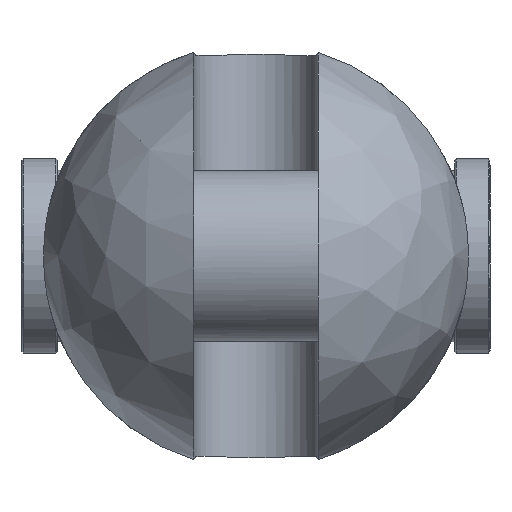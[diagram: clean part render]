
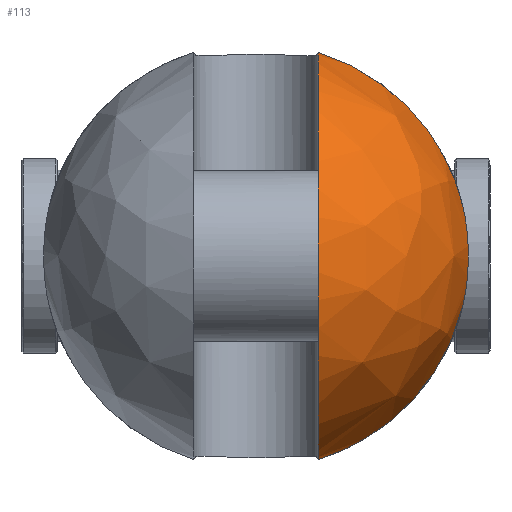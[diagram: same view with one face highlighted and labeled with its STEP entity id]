
A CAD part, left-side view. The second image highlights one B-rep face of the part: STEP entity #113.
In plain terms, the highlighted free-form (B-spline) face has degree [2, 2] with [9, 5] control points.
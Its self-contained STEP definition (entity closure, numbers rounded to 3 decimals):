
#113=ADVANCED_FACE('',(#200),#1527,.T.);
#200=FACE_OUTER_BOUND('',#299,.T.);
#299=EDGE_LOOP('',(#741,#742,#743,#744));
#741=ORIENTED_EDGE('',*,*,#999,.T.);
#742=ORIENTED_EDGE('',*,*,#996,.F.);
#743=ORIENTED_EDGE('',*,*,#1015,.T.);
#744=ORIENTED_EDGE('',*,*,#988,.F.);
#988=EDGE_CURVE('',#1418,#1419,#1249,.T.);
#996=EDGE_CURVE('',#1426,#1427,#1250,.T.);
#999=EDGE_CURVE('',#1418,#1427,#1252,.T.);
#1015=EDGE_CURVE('',#1426,#1419,#1123,.T.);
#1123=B_SPLINE_CURVE_WITH_KNOTS('',3,(#3624,#3625,#3626,#3627,#3628,#3629,
#3630,#3631,#3632,#3633,#3634,#3635,#3636,#3637),.UNSPECIFIED.,.F.,.F.,
(4,2,2,2,2,2,4),(0.,3.967,10.909,17.852,24.794,
31.737,35.704),.UNSPECIFIED.);
#1249=(
BOUNDED_CURVE()
B_SPLINE_CURVE(2,(#3476,#3477,#3478),.UNSPECIFIED.,.F.,.F.)
B_SPLINE_CURVE_WITH_KNOTS((3,3),(0.,74.724),.UNSPECIFIED.)
CURVE()
GEOMETRIC_REPRESENTATION_ITEM()
RATIONAL_B_SPLINE_CURVE((1.,0.868,1.))
REPRESENTATION_ITEM('')
);
#1250=(
BOUNDED_CURVE()
B_SPLINE_CURVE(2,(#3533,#3534,#3535),.UNSPECIFIED.,.F.,.F.)
B_SPLINE_CURVE_WITH_KNOTS((3,3),(0.,74.724),.UNSPECIFIED.)
CURVE()
GEOMETRIC_REPRESENTATION_ITEM()
RATIONAL_B_SPLINE_CURVE((1.,0.868,1.))
REPRESENTATION_ITEM('')
);
#1252=(
BOUNDED_CURVE()
B_SPLINE_CURVE(2,(#3541,#3542,#3543,#3544,#3545),.UNSPECIFIED.,.F.,.F.)
B_SPLINE_CURVE_WITH_KNOTS((3,2,3),(-216.36,-108.18,0.),
 .UNSPECIFIED.)
CURVE()
GEOMETRIC_REPRESENTATION_ITEM()
RATIONAL_B_SPLINE_CURVE((1.,0.707,1.,0.707,1.))
REPRESENTATION_ITEM('')
);
#1418=VERTEX_POINT('',#3274);
#1419=VERTEX_POINT('',#3275);
#1426=VERTEX_POINT('',#3282);
#1427=VERTEX_POINT('',#3283);
#1527=(
BOUNDED_SURFACE()
B_SPLINE_SURFACE(2,2,((#3146,#3147,#3148,#3149,#3150),(#3151,#3152,#3153,
#3154,#3155),(#3156,#3157,#3158,#3159,#3160),(#3161,#3162,#3163,#3164,#3165),
(#3166,#3167,#3168,#3169,#3170),(#3171,#3172,#3173,#3174,#3175),(#3176,
#3177,#3178,#3179,#3180),(#3181,#3182,#3183,#3184,#3185),(#3186,#3187,#3188,
#3189,#3190)),.UNSPECIFIED.,.T.,.F.,.F.)
B_SPLINE_SURFACE_WITH_KNOTS((3,2,2,2,3),(3,2,3),(0.,113.097,226.195,
339.292,452.389),(0.,113.097,226.195),
 .UNSPECIFIED.)
GEOMETRIC_REPRESENTATION_ITEM()
RATIONAL_B_SPLINE_SURFACE(((1.,0.707,1.,0.707,1.),
(0.707,0.5,0.707,0.5,0.707),(1.,0.707,
1.,0.707,1.),(0.707,0.5,0.707,0.5,0.707),
(1.,0.707,1.,0.707,1.),(0.707,0.5,0.707,
0.5,0.707),(1.,0.707,1.,0.707,1.),(0.707,
0.5,0.707,0.5,0.707),(1.,0.707,1.,0.707,
1.)))
REPRESENTATION_ITEM('')
SURFACE()
);
#3146=CARTESIAN_POINT('',(-101.5,0.,0.));
#3147=CARTESIAN_POINT('',(-101.5,72.,0.));
#3148=CARTESIAN_POINT('',(-29.5,72.,0.));
#3149=CARTESIAN_POINT('',(42.5,72.,0.));
#3150=CARTESIAN_POINT('',(42.5,0.,0.));
#3151=CARTESIAN_POINT('',(-101.5,0.,0.));
#3152=CARTESIAN_POINT('',(-101.5,72.,72.));
#3153=CARTESIAN_POINT('',(-29.5,72.,72.));
#3154=CARTESIAN_POINT('',(42.5,72.,72.));
#3155=CARTESIAN_POINT('',(42.5,0.,0.));
#3156=CARTESIAN_POINT('',(-101.5,0.,0.));
#3157=CARTESIAN_POINT('',(-101.5,0.,72.));
#3158=CARTESIAN_POINT('',(-29.5,0.,72.));
#3159=CARTESIAN_POINT('',(42.5,0.,72.));
#3160=CARTESIAN_POINT('',(42.5,0.,0.));
#3161=CARTESIAN_POINT('',(-101.5,0.,0.));
#3162=CARTESIAN_POINT('',(-101.5,-72.,72.));
#3163=CARTESIAN_POINT('',(-29.5,-72.,72.));
#3164=CARTESIAN_POINT('',(42.5,-72.,72.));
#3165=CARTESIAN_POINT('',(42.5,0.,0.));
#3166=CARTESIAN_POINT('',(-101.5,0.,0.));
#3167=CARTESIAN_POINT('',(-101.5,-72.,0.));
#3168=CARTESIAN_POINT('',(-29.5,-72.,0.));
#3169=CARTESIAN_POINT('',(42.5,-72.,0.));
#3170=CARTESIAN_POINT('',(42.5,0.,0.));
#3171=CARTESIAN_POINT('',(-101.5,0.,0.));
#3172=CARTESIAN_POINT('',(-101.5,-72.,-72.));
#3173=CARTESIAN_POINT('',(-29.5,-72.,-72.));
#3174=CARTESIAN_POINT('',(42.5,-72.,-72.));
#3175=CARTESIAN_POINT('',(42.5,0.,0.));
#3176=CARTESIAN_POINT('',(-101.5,0.,0.));
#3177=CARTESIAN_POINT('',(-101.5,0.,-72.));
#3178=CARTESIAN_POINT('',(-29.5,0.,-72.));
#3179=CARTESIAN_POINT('',(42.5,0.,-72.));
#3180=CARTESIAN_POINT('',(42.5,0.,0.));
#3181=CARTESIAN_POINT('',(-101.5,0.,0.));
#3182=CARTESIAN_POINT('',(-101.5,72.,-72.));
#3183=CARTESIAN_POINT('',(-29.5,72.,-72.));
#3184=CARTESIAN_POINT('',(42.5,72.,-72.));
#3185=CARTESIAN_POINT('',(42.5,0.,0.));
#3186=CARTESIAN_POINT('',(-101.5,0.,0.));
#3187=CARTESIAN_POINT('',(-101.5,72.,0.));
#3188=CARTESIAN_POINT('',(-29.5,72.,0.));
#3189=CARTESIAN_POINT('',(42.5,72.,0.));
#3190=CARTESIAN_POINT('',(42.5,0.,0.));
#3274=CARTESIAN_POINT('',(-29.5,-21.,68.869));
#3275=CARTESIAN_POINT('',(-29.5,-69.987,16.904));
#3282=CARTESIAN_POINT('',(-29.5,-69.987,-16.904));
#3283=CARTESIAN_POINT('',(-29.5,-21.,-68.869));
#3476=CARTESIAN_POINT('',(-29.5,-21.,68.869));
#3477=CARTESIAN_POINT('',(-29.5,-60.333,56.876));
#3478=CARTESIAN_POINT('',(-29.5,-69.987,16.904));
#3533=CARTESIAN_POINT('',(-29.5,-69.987,-16.904));
#3534=CARTESIAN_POINT('',(-29.5,-60.333,-56.876));
#3535=CARTESIAN_POINT('',(-29.5,-21.,-68.869));
#3541=CARTESIAN_POINT('',(-29.5,-21.,68.869));
#3542=CARTESIAN_POINT('',(-98.369,-21.,68.869));
#3543=CARTESIAN_POINT('',(-98.369,-21.,0.));
#3544=CARTESIAN_POINT('',(-98.369,-21.,-68.869));
#3545=CARTESIAN_POINT('',(-29.5,-21.,-68.869));
#3624=CARTESIAN_POINT('',(-29.5,-69.987,-16.904));
#3625=CARTESIAN_POINT('',(-30.15,-70.261,-15.77));
#3626=CARTESIAN_POINT('',(-30.739,-70.508,-14.589));
#3627=CARTESIAN_POINT('',(-32.168,-71.104,-11.25));
#3628=CARTESIAN_POINT('',(-32.863,-71.391,-9.017));
#3629=CARTESIAN_POINT('',(-33.779,-71.769,-4.501));
#3630=CARTESIAN_POINT('',(-34.,-71.859,-2.218));
#3631=CARTESIAN_POINT('',(-34.,-71.859,2.218));
#3632=CARTESIAN_POINT('',(-33.779,-71.769,4.501));
#3633=CARTESIAN_POINT('',(-32.863,-71.391,9.017));
#3634=CARTESIAN_POINT('',(-32.168,-71.104,11.25));
#3635=CARTESIAN_POINT('',(-30.739,-70.508,14.589));
#3636=CARTESIAN_POINT('',(-30.15,-70.261,15.77));
#3637=CARTESIAN_POINT('',(-29.5,-69.987,16.904));
